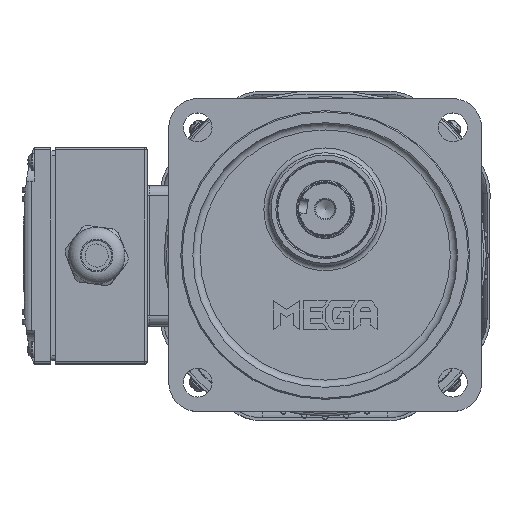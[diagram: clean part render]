
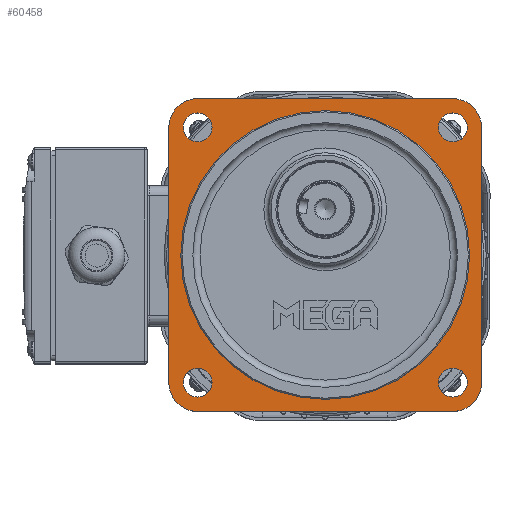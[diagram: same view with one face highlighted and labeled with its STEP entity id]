
A CAD part, top view. The second image highlights one B-rep face of the part: STEP entity #60458.
In plain terms, the highlighted planar face has unit normal (0, 0, 1).
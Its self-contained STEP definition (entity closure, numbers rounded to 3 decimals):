
#1469=FACE_BOUND('',#8138,.T.);
#1470=FACE_BOUND('',#8139,.T.);
#1471=FACE_BOUND('',#8140,.T.);
#1472=FACE_BOUND('',#8141,.T.);
#1473=FACE_BOUND('',#8142,.T.);
#2539=PLANE('',#65234);
#4415=FACE_OUTER_BOUND('',#8137,.T.);
#8137=EDGE_LOOP('',(#43704,#43705,#43706,#43707,#43708,#43709,#43710,#43711));
#8138=EDGE_LOOP('',(#43712));
#8139=EDGE_LOOP('',(#43713));
#8140=EDGE_LOOP('',(#43714));
#8141=EDGE_LOOP('',(#43715));
#8142=EDGE_LOOP('',(#43716));
#11599=CIRCLE('',#64841,12.);
#11601=CIRCLE('',#64875,6.);
#11603=CIRCLE('',#64878,6.);
#11605=CIRCLE('',#64881,6.);
#11607=CIRCLE('',#64884,6.);
#11609=CIRCLE('',#64887,12.);
#11802=CIRCLE('',#65230,12.);
#11803=CIRCLE('',#65233,12.);
#11804=CIRCLE('',#65235,60.);
#15600=LINE('',#98729,#18545);
#15603=LINE('',#98753,#18548);
#15729=LINE('',#100909,#18674);
#15734=LINE('',#100937,#18679);
#18545=VECTOR('',#74934,10.);
#18548=VECTOR('',#74939,10.);
#18674=VECTOR('',#75667,10.);
#18679=VECTOR('',#75678,10.);
#24173=VERTEX_POINT('',#98318);
#24174=VERTEX_POINT('',#98319);
#24263=VERTEX_POINT('',#98557);
#24265=VERTEX_POINT('',#98563);
#24267=VERTEX_POINT('',#98569);
#24269=VERTEX_POINT('',#98575);
#24271=VERTEX_POINT('',#98581);
#24272=VERTEX_POINT('',#98582);
#24317=VERTEX_POINT('',#98752);
#24523=VERTEX_POINT('',#100908);
#24526=VERTEX_POINT('',#100932);
#24527=VERTEX_POINT('',#100936);
#24530=VERTEX_POINT('',#100962);
#30751=EDGE_CURVE('',#24173,#24174,#11599,.T.);
#30868=EDGE_CURVE('',#24263,#24263,#11601,.T.);
#30871=EDGE_CURVE('',#24265,#24265,#11603,.T.);
#30874=EDGE_CURVE('',#24267,#24267,#11605,.T.);
#30877=EDGE_CURVE('',#24269,#24269,#11607,.T.);
#30880=EDGE_CURVE('',#24271,#24272,#11609,.T.);
#30939=EDGE_CURVE('',#24174,#24271,#15600,.T.);
#30944=EDGE_CURVE('',#24272,#24317,#15603,.T.);
#31321=EDGE_CURVE('',#24523,#24173,#15729,.T.);
#31327=EDGE_CURVE('',#24526,#24523,#11802,.T.);
#31329=EDGE_CURVE('',#24527,#24526,#15734,.T.);
#31335=EDGE_CURVE('',#24317,#24527,#11803,.T.);
#31336=EDGE_CURVE('',#24530,#24530,#11804,.T.);
#43704=ORIENTED_EDGE('',*,*,#31321,.F.);
#43705=ORIENTED_EDGE('',*,*,#31327,.F.);
#43706=ORIENTED_EDGE('',*,*,#31329,.F.);
#43707=ORIENTED_EDGE('',*,*,#31335,.F.);
#43708=ORIENTED_EDGE('',*,*,#30944,.F.);
#43709=ORIENTED_EDGE('',*,*,#30880,.F.);
#43710=ORIENTED_EDGE('',*,*,#30939,.F.);
#43711=ORIENTED_EDGE('',*,*,#30751,.F.);
#43712=ORIENTED_EDGE('',*,*,#31336,.F.);
#43713=ORIENTED_EDGE('',*,*,#30877,.F.);
#43714=ORIENTED_EDGE('',*,*,#30874,.F.);
#43715=ORIENTED_EDGE('',*,*,#30871,.F.);
#43716=ORIENTED_EDGE('',*,*,#30868,.F.);
#60458=ADVANCED_FACE('',(#4415,#1469,#1470,#1471,#1472,#1473),#2539,.T.);
#64841=AXIS2_PLACEMENT_3D('',#98320,#74614,#74615);
#64875=AXIS2_PLACEMENT_3D('',#98558,#74797,#74798);
#64878=AXIS2_PLACEMENT_3D('',#98564,#74804,#74805);
#64881=AXIS2_PLACEMENT_3D('',#98570,#74811,#74812);
#64884=AXIS2_PLACEMENT_3D('',#98576,#74818,#74819);
#64887=AXIS2_PLACEMENT_3D('',#98583,#74825,#74826);
#65230=AXIS2_PLACEMENT_3D('',#100933,#75673,#75674);
#65233=AXIS2_PLACEMENT_3D('',#100960,#75684,#75685);
#65234=AXIS2_PLACEMENT_3D('',#100961,#75686,#75687);
#65235=AXIS2_PLACEMENT_3D('',#100963,#75688,#75689);
#74614=DIRECTION('center_axis',(0.,0.,
-1.));
#74615=DIRECTION('ref_axis',(0.,1.,0.));
#74797=DIRECTION('center_axis',(0.,0.,
1.));
#74798=DIRECTION('ref_axis',(-1.,0.,0.));
#74804=DIRECTION('center_axis',(0.,0.,
1.));
#74805=DIRECTION('ref_axis',(-1.,0.,0.));
#74811=DIRECTION('center_axis',(0.,0.,
1.));
#74812=DIRECTION('ref_axis',(-1.,0.,0.));
#74818=DIRECTION('center_axis',(0.,0.,
1.));
#74819=DIRECTION('ref_axis',(-1.,0.,0.));
#74825=DIRECTION('center_axis',(0.,0.,
-1.));
#74826=DIRECTION('ref_axis',(1.,0.,0.));
#74934=DIRECTION('',(1.,0.,0.));
#74939=DIRECTION('',(0.,-1.,0.));
#75667=DIRECTION('',(0.,1.,0.));
#75673=DIRECTION('center_axis',(0.,0.,
-1.));
#75674=DIRECTION('ref_axis',(-1.,0.,0.));
#75678=DIRECTION('',(-1.,0.,0.));
#75684=DIRECTION('center_axis',(0.,0.,
-1.));
#75685=DIRECTION('ref_axis',(0.,-1.,0.));
#75686=DIRECTION('center_axis',(0.,0.,
1.));
#75687=DIRECTION('ref_axis',(1.,0.,0.));
#75688=DIRECTION('center_axis',(0.,0.,
1.));
#75689=DIRECTION('ref_axis',(-1.,0.,0.));
#98318=CARTESIAN_POINT('',(-57.796,60.321,30.25));
#98319=CARTESIAN_POINT('',(-45.796,72.321,30.25));
#98320=CARTESIAN_POINT('Origin',(-45.796,60.321,30.25));
#98557=CARTESIAN_POINT('',(-39.829,60.354,30.25));
#98558=CARTESIAN_POINT('Origin',(-45.829,60.354,30.25));
#98563=CARTESIAN_POINT('',(66.237,60.354,30.25));
#98564=CARTESIAN_POINT('Origin',(60.237,60.354,30.25));
#98569=CARTESIAN_POINT('',(66.237,-45.712,30.25));
#98570=CARTESIAN_POINT('Origin',(60.237,-45.712,30.25));
#98575=CARTESIAN_POINT('',(-39.829,-45.712,30.25));
#98576=CARTESIAN_POINT('Origin',(-45.829,-45.712,30.25));
#98581=CARTESIAN_POINT('',(60.204,72.321,30.25));
#98582=CARTESIAN_POINT('',(72.204,60.321,30.25));
#98583=CARTESIAN_POINT('Origin',(60.204,60.321,30.25));
#98729=CARTESIAN_POINT('',(-19.296,72.321,30.25));
#98752=CARTESIAN_POINT('',(72.204,-45.679,30.25));
#98753=CARTESIAN_POINT('',(72.204,33.821,30.25));
#100908=CARTESIAN_POINT('',(-57.796,-45.679,30.25));
#100909=CARTESIAN_POINT('',(-57.796,-19.179,30.25));
#100932=CARTESIAN_POINT('',(-45.796,-57.679,30.25));
#100933=CARTESIAN_POINT('Origin',(-45.796,-45.679,30.25));
#100936=CARTESIAN_POINT('',(60.204,-57.679,30.25));
#100937=CARTESIAN_POINT('',(33.704,-57.679,30.25));
#100960=CARTESIAN_POINT('Origin',(60.204,-45.679,30.25));
#100961=CARTESIAN_POINT('Origin',(7.204,7.321,30.25));
#100962=CARTESIAN_POINT('',(67.204,7.321,30.25));
#100963=CARTESIAN_POINT('Origin',(7.204,7.321,30.25));
